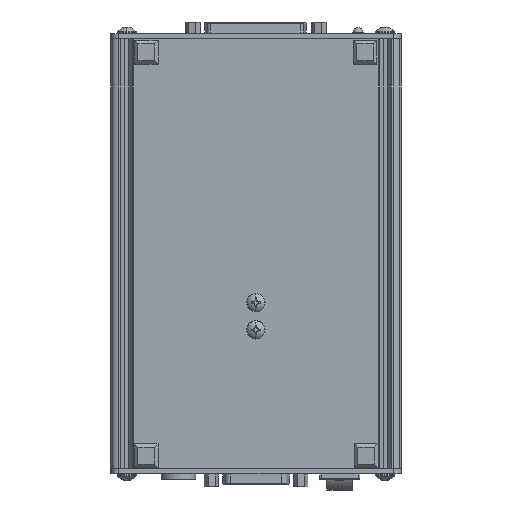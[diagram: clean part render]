
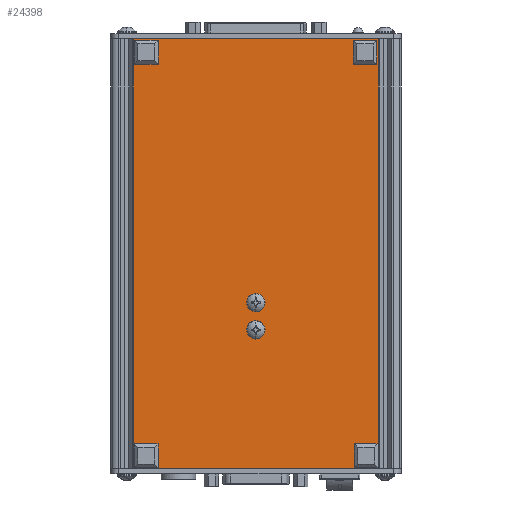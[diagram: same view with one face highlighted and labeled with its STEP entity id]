
A CAD part, front view. The second image highlights one B-rep face of the part: STEP entity #24398.
In plain terms, the highlighted planar face has unit normal (0, -1, 0) as drawn and (0, 1, 0) by its records, which use the part's own axes.
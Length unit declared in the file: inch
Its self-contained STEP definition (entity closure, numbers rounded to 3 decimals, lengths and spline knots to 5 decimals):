
#974 = ORIENTED_EDGE ( 'NONE', *, *, #73794, .F. ) ;
#1697 = VECTOR ( 'NONE', #24045, 39.37008 ) ;
#2942 = CIRCLE ( 'NONE', #110146, 0.075 ) ;
#7382 = VECTOR ( 'NONE', #32528, 39.37008 ) ;
#8794 = CARTESIAN_POINT ( 'NONE',  ( -3.24338, 5.35878, 0. ) ) ;
#11956 = ORIENTED_EDGE ( 'NONE', *, *, #59160, .T. ) ;
#16245 = CIRCLE ( 'NONE', #25779, 0.075 ) ;
#17604 = AXIS2_PLACEMENT_3D ( 'NONE', #45281, #18343, #106958 ) ;
#18343 = DIRECTION ( 'NONE',  ( 0., -1., 0. ) ) ;
#18564 = LINE ( 'NONE', #86327, #7382 ) ;
#19680 = CARTESIAN_POINT ( 'NONE',  ( -5.04904, 5.35878, 2.04009 ) ) ;
#20805 = DIRECTION ( 'NONE',  ( -1., 0., 0. ) ) ;
#21142 = LINE ( 'NONE', #114933, #1697 ) ;
#21637 = VECTOR ( 'NONE', #62216, 39.37008 ) ;
#22362 = AXIS2_PLACEMENT_3D ( 'NONE', #80892, #54057, #37607 ) ;
#23421 = CARTESIAN_POINT ( 'NONE',  ( -4.97404, 5.35878, 2.04009 ) ) ;
#24045 = DIRECTION ( 'NONE',  ( -1., 0., 0. ) ) ;
#24398 = ADVANCED_FACE ( 'NONE', ( #61812, #77058, #52050 ), #113548, .F. ) ;
#25231 = ORIENTED_EDGE ( 'NONE', *, *, #31278, .F. ) ;
#25779 = AXIS2_PLACEMENT_3D ( 'NONE', #19680, #82110, #20805 ) ;
#29186 = EDGE_LOOP ( 'NONE', ( #107107, #69825 ) ) ;
#31278 = EDGE_CURVE ( 'NONE', #47055, #31877, #2942, .T. ) ;
#31877 = VERTEX_POINT ( 'NONE', #76223 ) ;
#32528 = DIRECTION ( 'NONE',  ( -1., 0., 0. ) ) ;
#32799 = DIRECTION ( 'NONE',  ( 0., 1., 0. ) ) ;
#33804 = CARTESIAN_POINT ( 'NONE',  ( -6.85756, 5.35878, 6.3189 ) ) ;
#33969 = CARTESIAN_POINT ( 'NONE',  ( -5.04904, 5.35878, 2.44009 ) ) ;
#36048 = AXIS2_PLACEMENT_3D ( 'NONE', #33969, #32799, #41776 ) ;
#36316 = EDGE_LOOP ( 'NONE', ( #78512, #69788, #38520, #11956 ) ) ;
#37607 = DIRECTION ( 'NONE',  ( -1., 0., 0. ) ) ;
#38520 = ORIENTED_EDGE ( 'NONE', *, *, #64677, .F. ) ;
#41776 = DIRECTION ( 'NONE',  ( -1., 0., 0. ) ) ;
#42556 = VERTEX_POINT ( 'NONE', #83272 ) ;
#43699 = CARTESIAN_POINT ( 'NONE',  ( -6.85756, 5.35878, 6.3189 ) ) ;
#45281 = CARTESIAN_POINT ( 'NONE',  ( -3.24338, 5.35878, 6.3189 ) ) ;
#47055 = VERTEX_POINT ( 'NONE', #23421 ) ;
#49006 = CIRCLE ( 'NONE', #22362, 0.075 ) ;
#50227 = DIRECTION ( 'NONE',  ( 0., 1., 0. ) ) ;
#52050 = FACE_OUTER_BOUND ( 'NONE', #36316, .T. ) ;
#53310 = DIRECTION ( 'NONE',  ( 0., 0., -1. ) ) ;
#54057 = DIRECTION ( 'NONE',  ( 0., 1., 0. ) ) ;
#56645 = VERTEX_POINT ( 'NONE', #108689 ) ;
#58508 = VERTEX_POINT ( 'NONE', #61600 ) ;
#58866 = CARTESIAN_POINT ( 'NONE',  ( -5.04904, 5.35878, 2.04009 ) ) ;
#59160 = EDGE_CURVE ( 'NONE', #58508, #80097, #69192, .T. ) ;
#61600 = CARTESIAN_POINT ( 'NONE',  ( -3.24338, 5.35878, 6.3189 ) ) ;
#61812 = FACE_BOUND ( 'NONE', #29186, .T. ) ;
#62216 = DIRECTION ( 'NONE',  ( 0., 0., -1. ) ) ;
#63944 = EDGE_CURVE ( 'NONE', #80097, #56645, #18564, .T. ) ;
#64255 = LINE ( 'NONE', #33804, #76699 ) ;
#64677 = EDGE_CURVE ( 'NONE', #58508, #113940, #21142, .T. ) ;
#67947 = EDGE_CURVE ( 'NONE', #70413, #42556, #49006, .T. ) ;
#69192 = LINE ( 'NONE', #96548, #21637 ) ;
#69739 = EDGE_LOOP ( 'NONE', ( #974, #25231 ) ) ;
#69788 = ORIENTED_EDGE ( 'NONE', *, *, #101629, .F. ) ;
#69825 = ORIENTED_EDGE ( 'NONE', *, *, #67947, .F. ) ;
#70413 = VERTEX_POINT ( 'NONE', #109344 ) ;
#70631 = EDGE_CURVE ( 'NONE', #42556, #70413, #87992, .T. ) ;
#73794 = EDGE_CURVE ( 'NONE', #31877, #47055, #16245, .T. ) ;
#76223 = CARTESIAN_POINT ( 'NONE',  ( -5.12404, 5.35878, 2.04009 ) ) ;
#76699 = VECTOR ( 'NONE', #53310, 39.37008 ) ;
#77058 = FACE_BOUND ( 'NONE', #69739, .T. ) ;
#77101 = DIRECTION ( 'NONE',  ( -1., 0., 0. ) ) ;
#78512 = ORIENTED_EDGE ( 'NONE', *, *, #63944, .T. ) ;
#80097 = VERTEX_POINT ( 'NONE', #8794 ) ;
#80892 = CARTESIAN_POINT ( 'NONE',  ( -5.04904, 5.35878, 2.44009 ) ) ;
#82110 = DIRECTION ( 'NONE',  ( 0., 1., 0. ) ) ;
#83272 = CARTESIAN_POINT ( 'NONE',  ( -5.12404, 5.35878, 2.44009 ) ) ;
#86327 = CARTESIAN_POINT ( 'NONE',  ( -3.24338, 5.35878, 0. ) ) ;
#87992 = CIRCLE ( 'NONE', #36048, 0.075 ) ;
#96548 = CARTESIAN_POINT ( 'NONE',  ( -3.24338, 5.35878, 6.3189 ) ) ;
#101629 = EDGE_CURVE ( 'NONE', #113940, #56645, #64255, .T. ) ;
#106958 = DIRECTION ( 'NONE',  ( 1., 0., 0. ) ) ;
#107107 = ORIENTED_EDGE ( 'NONE', *, *, #70631, .F. ) ;
#108689 = CARTESIAN_POINT ( 'NONE',  ( -6.85756, 5.35878, 0. ) ) ;
#109344 = CARTESIAN_POINT ( 'NONE',  ( -4.97404, 5.35878, 2.44009 ) ) ;
#110146 = AXIS2_PLACEMENT_3D ( 'NONE', #58866, #50227, #77101 ) ;
#113548 = PLANE ( 'NONE',  #17604 ) ;
#113940 = VERTEX_POINT ( 'NONE', #43699 ) ;
#114933 = CARTESIAN_POINT ( 'NONE',  ( -3.24338, 5.35878, 6.3189 ) ) ;
